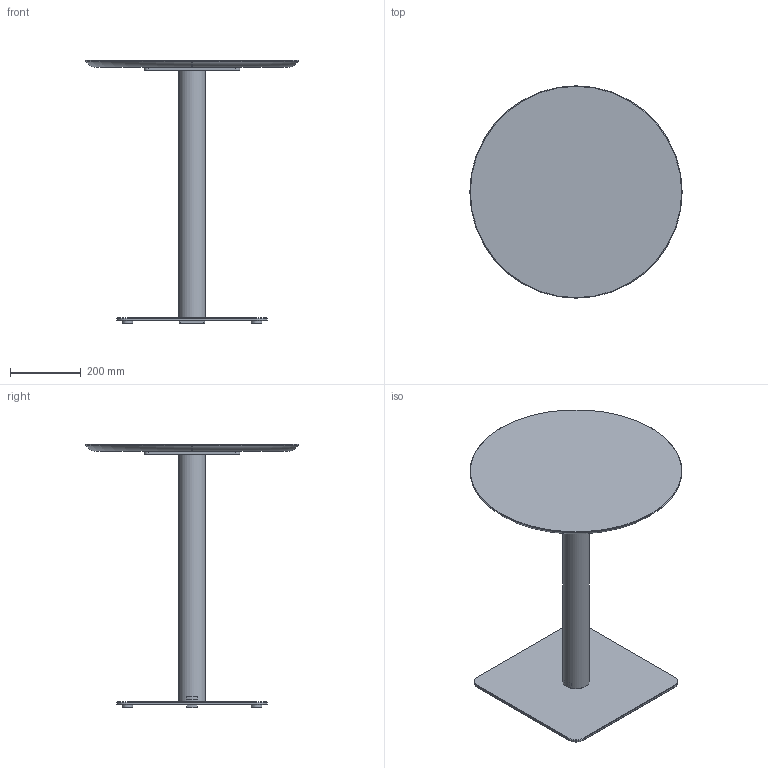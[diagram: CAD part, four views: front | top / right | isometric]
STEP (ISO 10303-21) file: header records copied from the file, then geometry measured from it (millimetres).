
FILE_DESCRIPTION( ('This file contains a STEP AP42 implementation' ,'as created by ZW3D STEP Interface translator.') ,'2;1' );
FILE_NAME( 'Henri - B_Carré - F1 - M3 - 600 x 600 x 750.stp' ,'24 912.161825', (''), ('ZWCAD Software Co.'), 'Version 1.0', 'ZW3D to STEP translator', '' );
FILE_SCHEMA(('AUTOMOTIVE_DESIGN { 1 0 10303 214 1 1 1 1 }'));
Length unit declared in the file: millimetre
Products named in the file (14): 0; PIED BISTROT PARAMETRIQUE_; COLONNE ACIER Ø76 V.02_; TUB-D076-02_; PLA-R76B-01_; CROIX ACIER 370 V.02_; CRX-X370-02_; SOCLE ACIER L 425x425 V.02_; SCL-R425-02_; PLA-R30A-01_; PLA-R30A-01; WUERTH 0276063020 Euro-screw 6.3x2 Verzinkt_; PLATEAU BISTROT PARAMETRIQUE_; insert_m6_13_
Assembly tree (22 placements, depth 3):
  0
  PIED BISTROT PARAMETRIQUE_
    COLONNE ACIER Ø76 V.02_
      TUB-D076-02_
      PLA-R76B-01_  x2
    CROIX ACIER 370 V.02_
      CRX-X370-02_
    SOCLE ACIER L 425x425 V.02_
      SCL-R425-02_
      PLA-R30A-01_
      PLA-R30A-01  x3
    WUERTH 0276063020 Euro-screw 6.3x2 Verzinkt_
    PLATEAU BISTROT PARAMETRIQUE_
      insert_m6_13_  x8
Bounding box: 600 x 600 x 744 mm (x, y, z)
Volume: 7750970.5 mm3; surface area: 1473907.5 mm2
Topology: 19 solids, 19 shells, 537 faces, 1310 edges, 822 vertices
Faces by surface type: plane 258, bspline 121, cylinder 102, cone 51, torus 5
Full cylindrical faces by diameter (mm): 4.88 x1, 6 x8, 6.3 x1, 8 x45, 12 x2, 14 x2, 30 x4, 72 x1, 76 x1
Entity records: 12318 total; most frequent: CARTESIAN_POINT 3396, ORIENTED_EDGE 1624, DIRECTION 1527, EDGE_CURVE 812, VERTEX_POINT 518, AXIS2_PLACEMENT_3D 511, VECTOR 505, LINE 505
